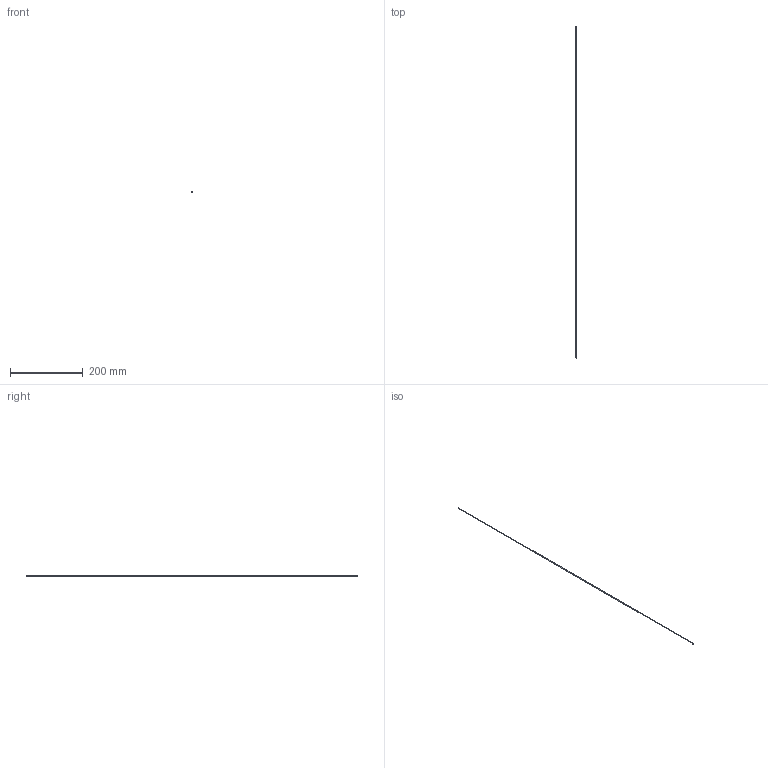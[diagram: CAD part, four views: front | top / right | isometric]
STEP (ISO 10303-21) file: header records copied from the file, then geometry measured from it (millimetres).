
FILE_DESCRIPTION(/* description */ (''),/* implementation_level */ '2;1');
FILE_NAME(/* name */ 'C:/Users/drich/Desktop/HF072T-36 v1.step',/* time_stamp */ '2019-12-30T13:33:39-06:00',/* author */ (''),/* organization */ (''),/* preprocessor_version */ 'ST-DEVELOPER v18',/* originating_system */ 'Autodesk Translation Framework v8.12.0.6',/* authorisation */ '');
FILE_SCHEMA (('AUTOMOTIVE_DESIGN { 1 0 10303 214 3 1 1 }'));
Length unit declared in the file: inch
Products named in the file (1): HF072T-36
Bounding box: 3.23 x 914.4 x 3.23 mm (x, y, z)
Volume: 751.5 mm3; surface area: 9657 mm2
Topology: 1 solids, 1 shells, 10 faces, 22 edges, 16 vertices
Faces by surface type: cylinder 4, plane 4, cone 1, torus 1
Full cylindrical faces by diameter (mm): 1.524 x1, 1.829 x1, 3.096 x1, 3.226 x1
Entity records: 342 total; most frequent: DIRECTION 61, CARTESIAN_POINT 51, ORIENTED_EDGE 44, AXIS2_PLACEMENT_3D 28, EDGE_CURVE 22, VERTEX_POINT 18, CIRCLE 17, EDGE_LOOP 16
